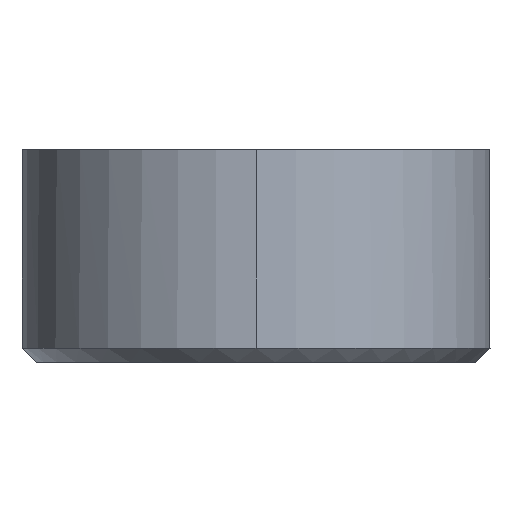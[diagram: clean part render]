
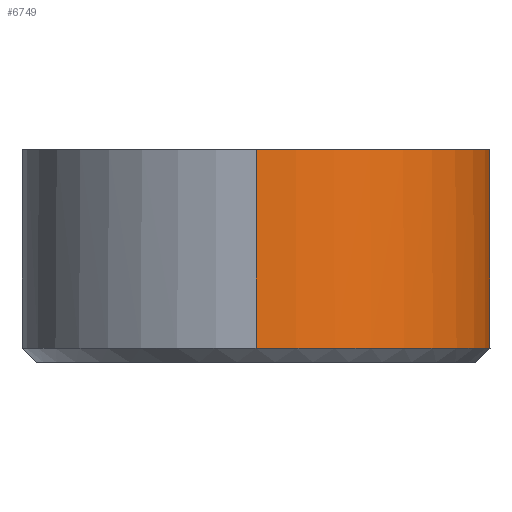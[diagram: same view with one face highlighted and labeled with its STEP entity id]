
A CAD part, left-side view. The second image highlights one B-rep face of the part: STEP entity #6749.
In plain terms, the highlighted cylindrical face has radius 16.5 mm (diameter 33 mm), a partial arc.
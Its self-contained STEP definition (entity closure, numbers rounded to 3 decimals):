
#104 = CARTESIAN_POINT ( 'NONE',  ( -65.64, 12.849, 1002. ) ) ;
#131 = FACE_OUTER_BOUND ( 'NONE', #8837, .T. ) ;
#839 = CARTESIAN_POINT ( 'NONE',  ( -65.64, 12.849, 1001. ) ) ;
#1118 = ORIENTED_EDGE ( 'NONE', *, *, #10005, .T. ) ;
#1215 = EDGE_CURVE ( 'NONE', #11065, #1961, #11293, .T. ) ;
#1589 = AXIS2_PLACEMENT_3D ( 'NONE', #11381, #3877, #2029 ) ;
#1667 = DIRECTION ( 'NONE',  ( 0., 0., 1. ) ) ;
#1800 = ORIENTED_EDGE ( 'NONE', *, *, #6728, .T. ) ;
#1961 = VERTEX_POINT ( 'NONE', #839 ) ;
#1972 = CARTESIAN_POINT ( 'NONE',  ( -38.587, 0.164, 1012.537 ) ) ;
#1989 = VECTOR ( 'NONE', #3797, 1000. ) ;
#2029 = DIRECTION ( 'NONE',  ( -1., 0., 0. ) ) ;
#2122 = EDGE_CURVE ( 'NONE', #1961, #7253, #7484, .T. ) ;
#2158 = DIRECTION ( 'NONE',  ( 1., 0., 0. ) ) ;
#2777 = CARTESIAN_POINT ( 'NONE',  ( -38.143, 0.545, 1013.579 ) ) ;
#3011 = CYLINDRICAL_SURFACE ( 'NONE', #1589, 16.5 ) ;
#3161 = CARTESIAN_POINT ( 'NONE',  ( -39.039, -0.198, 1002. ) ) ;
#3797 = DIRECTION ( 'NONE',  ( 0., 0., -1. ) ) ;
#3818 = CARTESIAN_POINT ( 'NONE',  ( -37.717, 0.939, 1014.329 ) ) ;
#3877 = DIRECTION ( 'NONE',  ( 0., 0., -1. ) ) ;
#4570 = CARTESIAN_POINT ( 'NONE',  ( -49.14, 12.849, 1015. ) ) ;
#5726 = CARTESIAN_POINT ( 'NONE',  ( -37.487, 1.162, 1014.677 ) ) ;
#6260 = CIRCLE ( 'NONE', #9974, 16.5 ) ;
#6660 = CARTESIAN_POINT ( 'NONE',  ( -39.039, -0.198, 1010.48 ) ) ;
#6708 = AXIS2_PLACEMENT_3D ( 'NONE', #9968, #1667, #9167 ) ;
#6721 = CARTESIAN_POINT ( 'NONE',  ( -38.794, -0.005, 1011.873 ) ) ;
#6728 = EDGE_CURVE ( 'NONE', #11804, #8367, #10477, .T. ) ;
#6749 = ADVANCED_FACE ( 'NONE', ( #131 ), #3011, .T. ) ;
#6776 = CARTESIAN_POINT ( 'NONE',  ( -39.039, -0.198, 1010. ) ) ;
#7198 = ORIENTED_EDGE ( 'NONE', *, *, #1215, .T. ) ;
#7253 = VERTEX_POINT ( 'NONE', #8207 ) ;
#7484 = CIRCLE ( 'NONE', #6708, 16.5 ) ;
#8207 = CARTESIAN_POINT ( 'NONE',  ( -39.039, -0.198, 1001. ) ) ;
#8367 = VERTEX_POINT ( 'NONE', #10987 ) ;
#8496 = CARTESIAN_POINT ( 'NONE',  ( -38.662, 0.103, 1012.319 ) ) ;
#8554 = CARTESIAN_POINT ( 'NONE',  ( -38.851, -0.051, 1011.644 ) ) ;
#8837 = EDGE_LOOP ( 'NONE', ( #9910, #7198, #10631, #1118, #1800 ) ) ;
#9167 = DIRECTION ( 'NONE',  ( 1., 0., 0. ) ) ;
#9273 = CARTESIAN_POINT ( 'NONE',  ( -39.039, -0.198, 1010. ) ) ;
#9414 = CARTESIAN_POINT ( 'NONE',  ( -38.99, -0.16, 1010.951 ) ) ;
#9595 = DIRECTION ( 'NONE',  ( 0., 0., 1. ) ) ;
#9668 = CARTESIAN_POINT ( 'NONE',  ( -65.64, 12.849, 1015. ) ) ;
#9897 = LINE ( 'NONE', #3161, #10288 ) ;
#9910 = ORIENTED_EDGE ( 'NONE', *, *, #11430, .F. ) ;
#9968 = CARTESIAN_POINT ( 'NONE',  ( -49.14, 12.849, 1001. ) ) ;
#9974 = AXIS2_PLACEMENT_3D ( 'NONE', #4570, #9595, #2158 ) ;
#10005 = EDGE_CURVE ( 'NONE', #7253, #11804, #9897, .T. ) ;
#10288 = VECTOR ( 'NONE', #10889, 1000. ) ;
#10445 = CARTESIAN_POINT ( 'NONE',  ( -38.339, 0.373, 1013.174 ) ) ;
#10477 = B_SPLINE_CURVE_WITH_KNOTS ( 'NONE', 3,
 ( #6776, #6660, #9414, #8554, #6721, #8496, #1972, #10445, #2777, #3818, #5726, #12129 ),
 .UNSPECIFIED., .F., .F.,
 ( 4, 2, 2, 2, 2, 4 ),
 ( 0., 0.001, 0.002, 0.003, 0.004, 0.006 ),
 .UNSPECIFIED. ) ;
#10631 = ORIENTED_EDGE ( 'NONE', *, *, #2122, .T. ) ;
#10889 = DIRECTION ( 'NONE',  ( 0., 0., 1. ) ) ;
#10987 = CARTESIAN_POINT ( 'NONE',  ( -37.244, 1.415, 1015. ) ) ;
#11065 = VERTEX_POINT ( 'NONE', #9668 ) ;
#11293 = LINE ( 'NONE', #104, #1989 ) ;
#11381 = CARTESIAN_POINT ( 'NONE',  ( -49.14, 12.849, 1002. ) ) ;
#11430 = EDGE_CURVE ( 'NONE', #11065, #8367, #6260, .T. ) ;
#11804 = VERTEX_POINT ( 'NONE', #9273 ) ;
#12129 = CARTESIAN_POINT ( 'NONE',  ( -37.244, 1.415, 1015. ) ) ;
